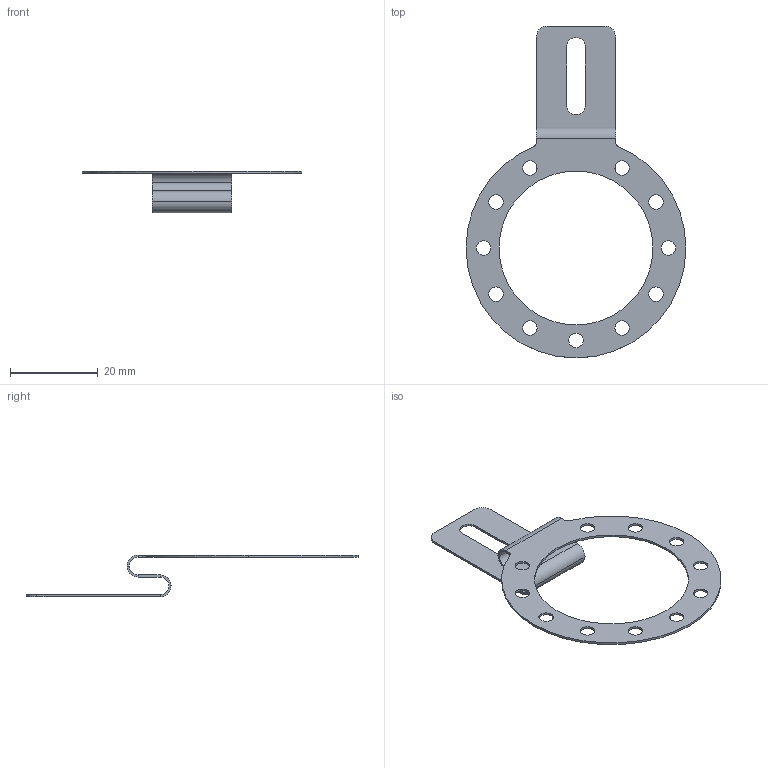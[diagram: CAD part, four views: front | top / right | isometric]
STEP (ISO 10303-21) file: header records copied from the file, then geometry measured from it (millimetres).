
FILE_DESCRIPTION (( 'STEP AP214' ), '1' );
FILE_NAME ('8.0010.40E0.0000.STEP', '2008-10-23T07:53:20', ( 'admin' ), ( 'Fritz Kübler GmbH' ), 'SwSTEP 2.0', 'SolidWorks 2008', '' );
FILE_SCHEMA (( 'AUTOMOTIVE_DESIGN' ));
Length unit declared in the file: millimetre
Products named in the file (2): N510276_Drehmomentstütze_Abwicklung~0_gebogen T030807; 8.0010.40E0.0000
Assembly tree (1 placements, depth 2):
  8.0010.40E0.0000
    N510276_Drehmomentstütze_Abwicklung~0_gebogen T030807
Bounding box: 50 x 75.5 x 9.5 mm (x, y, z)
Volume: 868.3 mm3; surface area: 3733.8 mm2
Topology: 1 solids, 1 shells, 64 faces, 162 edges, 100 vertices
Faces by surface type: cylinder 41, plane 23
Entity records: 2747 total; most frequent: DIRECTION 380, CARTESIAN_POINT 330, ORIENTED_EDGE 324, EDGE_CURVE 162, AXIS2_PLACEMENT_3D 150, VERTEX_POINT 100, EDGE_LOOP 90, CIRCLE 82
